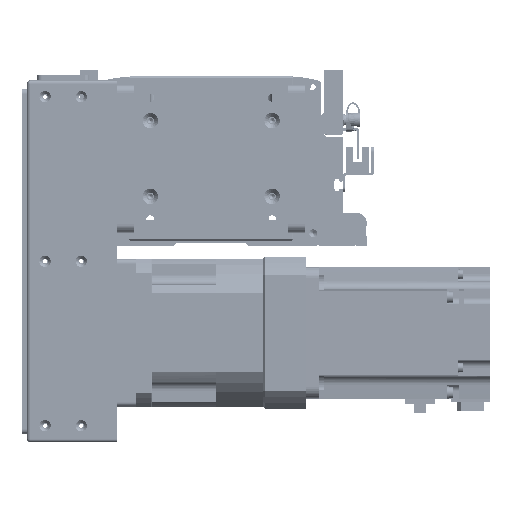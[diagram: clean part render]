
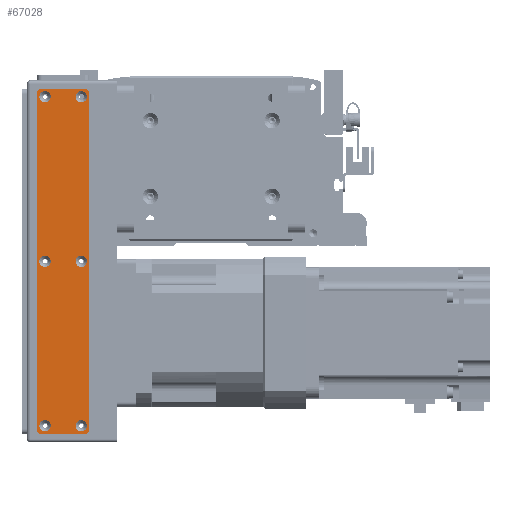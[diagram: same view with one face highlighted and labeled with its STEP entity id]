
A CAD part, front view. The second image highlights one B-rep face of the part: STEP entity #67028.
In plain terms, the highlighted planar face has unit normal (0, -1, 0).
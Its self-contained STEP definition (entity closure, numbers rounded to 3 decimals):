
#1839=FACE_BOUND('',#13968,.T.);
#1840=FACE_BOUND('',#13969,.T.);
#1841=FACE_BOUND('',#13970,.T.);
#1842=FACE_BOUND('',#13971,.T.);
#1843=FACE_BOUND('',#13972,.T.);
#1844=FACE_BOUND('',#13973,.T.);
#5034=PLANE('',#74167);
#9675=FACE_OUTER_BOUND('',#13967,.T.);
#13967=EDGE_LOOP('',(#63156,#63157,#63158,#63159,#63160,#63161,#63162,#63163));
#13968=EDGE_LOOP('',(#63164));
#13969=EDGE_LOOP('',(#63165));
#13970=EDGE_LOOP('',(#63166));
#13971=EDGE_LOOP('',(#63167));
#13972=EDGE_LOOP('',(#63168));
#13973=EDGE_LOOP('',(#63169));
#20174=LINE('',#115431,#26374);
#20175=LINE('',#115435,#26375);
#20176=LINE('',#115439,#26376);
#20177=LINE('',#115442,#26377);
#26374=VECTOR('',#93338,10.);
#26375=VECTOR('',#93341,10.);
#26376=VECTOR('',#93344,10.);
#26377=VECTOR('',#93347,10.);
#28966=CIRCLE('',#74135,3.45);
#28969=CIRCLE('',#74140,3.45);
#28972=CIRCLE('',#74145,3.45);
#28975=CIRCLE('',#74150,3.45);
#28978=CIRCLE('',#74155,3.45);
#28981=CIRCLE('',#74160,3.45);
#28984=CIRCLE('',#74165,3.);
#28986=CIRCLE('',#74168,3.);
#28987=CIRCLE('',#74169,3.);
#28988=CIRCLE('',#74170,3.);
#35137=VERTEX_POINT('',#115361);
#35140=VERTEX_POINT('',#115371);
#35143=VERTEX_POINT('',#115381);
#35146=VERTEX_POINT('',#115391);
#35149=VERTEX_POINT('',#115401);
#35152=VERTEX_POINT('',#115411);
#35155=VERTEX_POINT('',#115421);
#35156=VERTEX_POINT('',#115422);
#35159=VERTEX_POINT('',#115430);
#35160=VERTEX_POINT('',#115432);
#35161=VERTEX_POINT('',#115434);
#35162=VERTEX_POINT('',#115436);
#35163=VERTEX_POINT('',#115438);
#35164=VERTEX_POINT('',#115440);
#44464=EDGE_CURVE('',#35137,#35137,#28966,.T.);
#44469=EDGE_CURVE('',#35140,#35140,#28969,.T.);
#44474=EDGE_CURVE('',#35143,#35143,#28972,.T.);
#44479=EDGE_CURVE('',#35146,#35146,#28975,.T.);
#44484=EDGE_CURVE('',#35149,#35149,#28978,.T.);
#44489=EDGE_CURVE('',#35152,#35152,#28981,.T.);
#44494=EDGE_CURVE('',#35155,#35156,#28984,.T.);
#44498=EDGE_CURVE('',#35155,#35159,#20174,.T.);
#44499=EDGE_CURVE('',#35160,#35159,#28986,.T.);
#44500=EDGE_CURVE('',#35160,#35161,#20175,.T.);
#44501=EDGE_CURVE('',#35162,#35161,#28987,.T.);
#44502=EDGE_CURVE('',#35162,#35163,#20176,.T.);
#44503=EDGE_CURVE('',#35164,#35163,#28988,.T.);
#44504=EDGE_CURVE('',#35164,#35156,#20177,.T.);
#63156=ORIENTED_EDGE('',*,*,#44494,.F.);
#63157=ORIENTED_EDGE('',*,*,#44498,.T.);
#63158=ORIENTED_EDGE('',*,*,#44499,.F.);
#63159=ORIENTED_EDGE('',*,*,#44500,.T.);
#63160=ORIENTED_EDGE('',*,*,#44501,.F.);
#63161=ORIENTED_EDGE('',*,*,#44502,.T.);
#63162=ORIENTED_EDGE('',*,*,#44503,.F.);
#63163=ORIENTED_EDGE('',*,*,#44504,.T.);
#63164=ORIENTED_EDGE('',*,*,#44464,.T.);
#63165=ORIENTED_EDGE('',*,*,#44469,.T.);
#63166=ORIENTED_EDGE('',*,*,#44474,.T.);
#63167=ORIENTED_EDGE('',*,*,#44479,.T.);
#63168=ORIENTED_EDGE('',*,*,#44484,.T.);
#63169=ORIENTED_EDGE('',*,*,#44489,.T.);
#67028=ADVANCED_FACE('',(#9675,#1839,#1840,#1841,#1842,#1843,#1844),#5034,
 .T.);
#74135=AXIS2_PLACEMENT_3D('',#115362,#93258,#93259);
#74140=AXIS2_PLACEMENT_3D('',#115372,#93270,#93271);
#74145=AXIS2_PLACEMENT_3D('',#115382,#93282,#93283);
#74150=AXIS2_PLACEMENT_3D('',#115392,#93294,#93295);
#74155=AXIS2_PLACEMENT_3D('',#115402,#93306,#93307);
#74160=AXIS2_PLACEMENT_3D('',#115412,#93318,#93319);
#74165=AXIS2_PLACEMENT_3D('',#115423,#93330,#93331);
#74167=AXIS2_PLACEMENT_3D('',#115429,#93336,#93337);
#74168=AXIS2_PLACEMENT_3D('',#115433,#93339,#93340);
#74169=AXIS2_PLACEMENT_3D('',#115437,#93342,#93343);
#74170=AXIS2_PLACEMENT_3D('',#115441,#93345,#93346);
#93258=DIRECTION('center_axis',(0.,1.,0.));
#93259=DIRECTION('ref_axis',(1.,0.,0.));
#93270=DIRECTION('center_axis',(0.,1.,0.));
#93271=DIRECTION('ref_axis',(1.,0.,0.));
#93282=DIRECTION('center_axis',(0.,1.,0.));
#93283=DIRECTION('ref_axis',(1.,0.,0.));
#93294=DIRECTION('center_axis',(0.,1.,0.));
#93295=DIRECTION('ref_axis',(1.,0.,0.));
#93306=DIRECTION('center_axis',(0.,1.,0.));
#93307=DIRECTION('ref_axis',(1.,0.,0.));
#93318=DIRECTION('center_axis',(0.,1.,0.));
#93319=DIRECTION('ref_axis',(1.,0.,0.));
#93330=DIRECTION('center_axis',(0.,1.,0.));
#93331=DIRECTION('ref_axis',(-0.707,0.,0.707));
#93336=DIRECTION('center_axis',(0.,-1.,0.));
#93337=DIRECTION('ref_axis',(0.,0.,-1.));
#93338=DIRECTION('',(0.,0.,-1.));
#93339=DIRECTION('center_axis',(0.,1.,0.));
#93340=DIRECTION('ref_axis',(-0.707,0.,-0.707));
#93341=DIRECTION('',(1.,0.,0.));
#93342=DIRECTION('center_axis',(0.,1.,0.));
#93343=DIRECTION('ref_axis',(0.707,0.,-0.707));
#93344=DIRECTION('',(0.,0.,1.));
#93345=DIRECTION('center_axis',(0.,1.,0.));
#93346=DIRECTION('ref_axis',(0.707,0.,0.707));
#93347=DIRECTION('',(-1.,0.,0.));
#115361=CARTESIAN_POINT('',(96.55,-1.5,11.));
#115362=CARTESIAN_POINT('Origin',(100.,-1.5,11.));
#115371=CARTESIAN_POINT('',(-103.45,-1.5,-11.));
#115372=CARTESIAN_POINT('Origin',(-100.,-1.5,-11.));
#115381=CARTESIAN_POINT('',(-3.45,-1.5,11.));
#115382=CARTESIAN_POINT('Origin',(0.,-1.5,11.));
#115391=CARTESIAN_POINT('',(-3.45,-1.5,-11.));
#115392=CARTESIAN_POINT('Origin',(0.,-1.5,-11.));
#115401=CARTESIAN_POINT('',(-103.45,-1.5,11.));
#115402=CARTESIAN_POINT('Origin',(-100.,-1.5,11.));
#115411=CARTESIAN_POINT('',(96.55,-1.5,-11.));
#115412=CARTESIAN_POINT('Origin',(100.,-1.5,-11.));
#115421=CARTESIAN_POINT('',(-105.,-1.5,13.));
#115422=CARTESIAN_POINT('',(-102.,-1.5,16.));
#115423=CARTESIAN_POINT('Origin',(-102.,-1.5,13.));
#115429=CARTESIAN_POINT('Origin',(0.,-1.5,0.));
#115430=CARTESIAN_POINT('',(-105.,-1.5,-13.));
#115431=CARTESIAN_POINT('',(-105.,-1.5,16.));
#115432=CARTESIAN_POINT('',(-102.,-1.5,-16.));
#115433=CARTESIAN_POINT('Origin',(-102.,-1.5,-13.));
#115434=CARTESIAN_POINT('',(102.,-1.5,-16.));
#115435=CARTESIAN_POINT('',(-105.,-1.5,-16.));
#115436=CARTESIAN_POINT('',(105.,-1.5,-13.));
#115437=CARTESIAN_POINT('Origin',(102.,-1.5,-13.));
#115438=CARTESIAN_POINT('',(105.,-1.5,13.));
#115439=CARTESIAN_POINT('',(105.,-1.5,-16.));
#115440=CARTESIAN_POINT('',(102.,-1.5,16.));
#115441=CARTESIAN_POINT('Origin',(102.,-1.5,13.));
#115442=CARTESIAN_POINT('',(105.,-1.5,16.));
